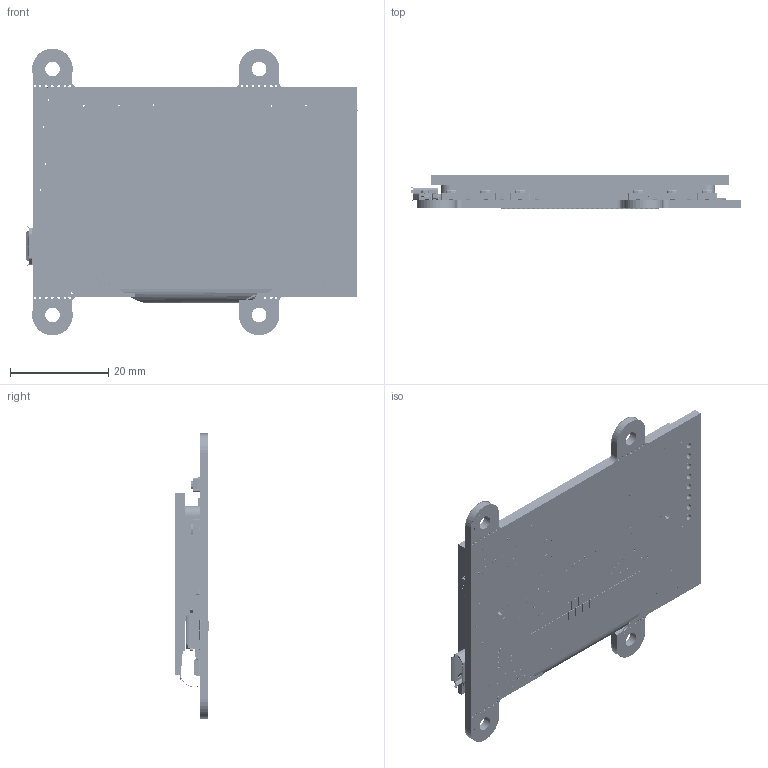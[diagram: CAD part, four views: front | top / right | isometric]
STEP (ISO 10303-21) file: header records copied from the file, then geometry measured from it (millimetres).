
FILE_DESCRIPTION (( 'STEP AP214' ), '1' );
FILE_NAME ('yoctoMaxiDisplay.STEP', '2015-08-25T05:25:55', ( 'martinm' ), ( '' ), 'SwSTEP 2.0', 'SolidWorks 2008', '' );
FILE_SCHEMA (( 'AUTOMOTIVE_DESIGN' ));
Length unit declared in the file: millimetre
Products named in the file (37): PCB; C1; C2-BOOST; C12; C15; C16; C18; C19; C20; C31; CF-BOOST; CPU1; D1; FLASH1; I1; IC1; R1; R2-A; R3; R7; R12; R14; R15; R18; R20; R28; R29; REG2; T1; USB1; YLED; Ybutton; sens1; support_ecran; DD-12864YW-6A_Défaut; 83.1286.02504; yoctoMaxiDisplay
Assembly tree (71 placements, depth 2):
  yoctoMaxiDisplay
    C20  x10
    R3  x2
    83.1286.02504  x2
    FLASH1
    Ybutton  x7
    T1
    support_ecran
    C31  x2
    R18  x3
    R14  x7
    C15  x2
    R7  x2
    R20  x4
    R28
    C18  x2
    I1
    DD-12864YW-6A_Défaut
    R15
    YLED
    C19  x2
    C12
    PCB
    CPU1
    C1
    USB1
    CF-BOOST
    IC1
    R1
    C16  x2
    R12
    R29
    sens1
    D1
    C2-BOOST
    REG2  x2
    R2-A
Bounding box: 67.33 x 6.75 x 58.25 mm (x, y, z)
Volume: 11813.9 mm3; surface area: 28825 mm2
Topology: 104 solids, 104 shells, 10165 faces, 26189 edges, 16960 vertices
Faces by surface type: plane 6326, cylinder 2688, bspline 896, sphere 192, torus 55, cone 8
Entity records: 336529 total; most frequent: CARTESIAN_POINT 80854, ORIENTED_EDGE 38164, DIRECTION 35572, EDGE_CURVE 19082, VECTOR 13500, LINE 13500, VERTEX_POINT 12566, AXIS2_PLACEMENT_3D 11036
